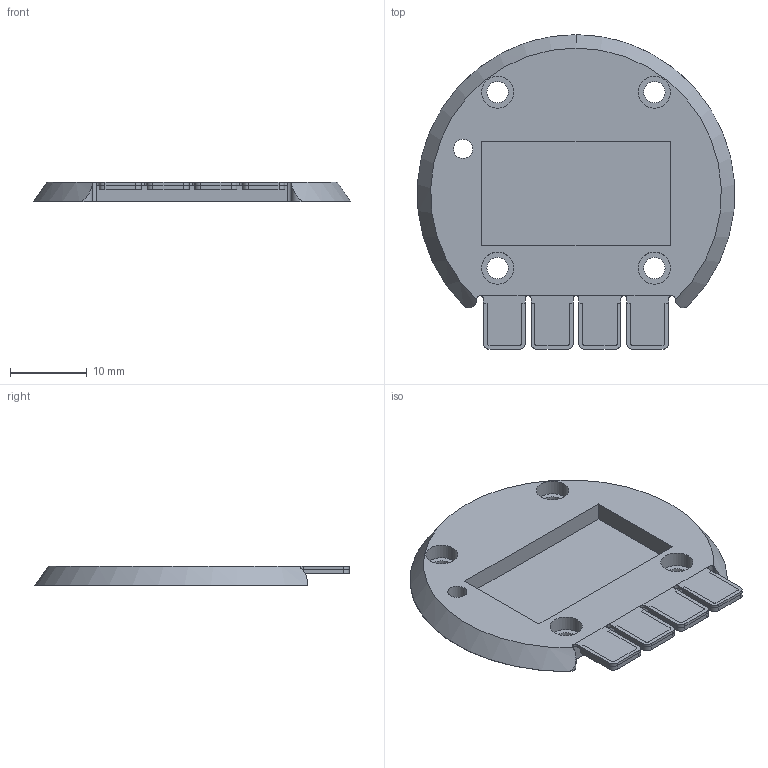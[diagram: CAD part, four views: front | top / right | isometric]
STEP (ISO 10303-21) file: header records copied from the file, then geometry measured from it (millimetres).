
FILE_DESCRIPTION(('FreeCAD Model'),'2;1');
FILE_NAME('Open CASCADE Shape Model','2023-12-13T02:29:43',(''),(''), 'Open CASCADE STEP processor 7.6','FreeCAD','Unknown');
FILE_SCHEMA(('AUTOMOTIVE_DESIGN { 1 0 10303 214 1 1 1 1 }'));
Length unit declared in the file: millimetre
Products named in the file (1): MiddlePart
Bounding box: 41.43 x 41.1 x 2.6 mm (x, y, z)
Volume: 1988.9 mm3; surface area: 3308 mm2
Topology: 1 solids, 1 shells, 155 faces, 399 edges, 256 vertices
Faces by surface type: plane 107, cylinder 46, cone 2
Full cylindrical faces by diameter (mm): 2.5 x1, 2.8 x4, 4.2 x4
Entity records: 4799 total; most frequent: CARTESIAN_POINT 904, DIRECTION 804, ORIENTED_EDGE 798, EDGE_CURVE 399, LINE 302, VECTOR 302, VERTEX_POINT 256, AXIS2_PLACEMENT_3D 251
